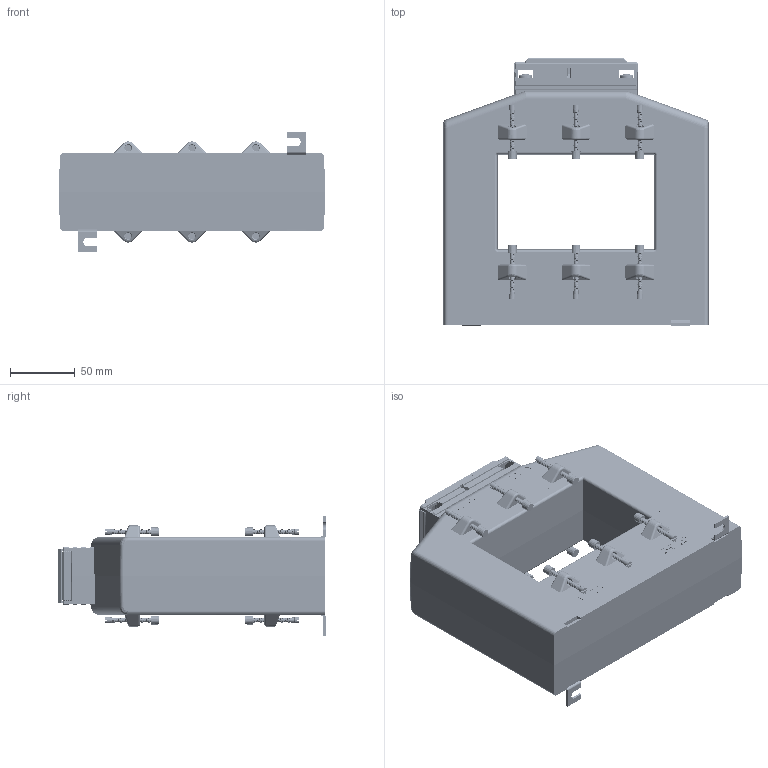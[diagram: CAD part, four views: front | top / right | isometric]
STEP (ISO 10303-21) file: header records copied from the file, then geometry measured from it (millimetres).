
FILE_DESCRIPTION(/* description */ (''),/* implementation_level */ '2;1');
FILE_NAME(/* name */ 'ASK127.6.stp',/* time_stamp */ '2024-03-04T14:45:08+01:00',/* author */ ('JDI'),/* organization */ (''),/* preprocessor_version */ 'ST-DEVELOPER v19.2',/* originating_system */ 'Autodesk Inventor 2023',/* authorisation */ '');
FILE_SCHEMA (('AUTOMOTIVE_DESIGN { 1 0 10303 214 3 1 1 }'));
Products named in the file (1): ASK127.6
Bounding box: 205 x 206.35 x 92 mm (x, y, z)
Volume: 1690388.4 mm3; surface area: 154416.3 mm2
Topology: 1 solids, 1 shells, 2493 faces, 6697 edges, 4334 vertices
Faces by surface type: plane 1264, cylinder 745, bspline 382, cone 82, torus 16, sphere 4
Full cylindrical faces by diameter (mm): 2 x1, 3 x216, 3.75 x30, 3.8 x24, 4 x144, 4.1 x12, 5 x12, 5.8 x12, 10 x4
Entity records: 142033 total; most frequent: CARTESIAN_POINT 81832, ORIENTED_EDGE 13394, DIRECTION 9853, EDGE_CURVE 6697, VERTEX_POINT 4334, LINE 4015, VECTOR 4015, AXIS2_PLACEMENT_3D 2919
